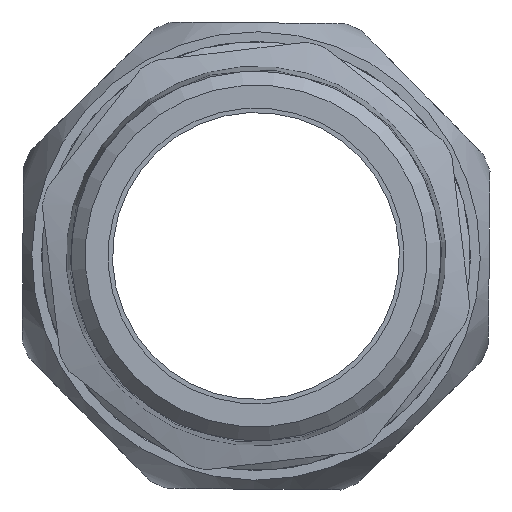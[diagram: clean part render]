
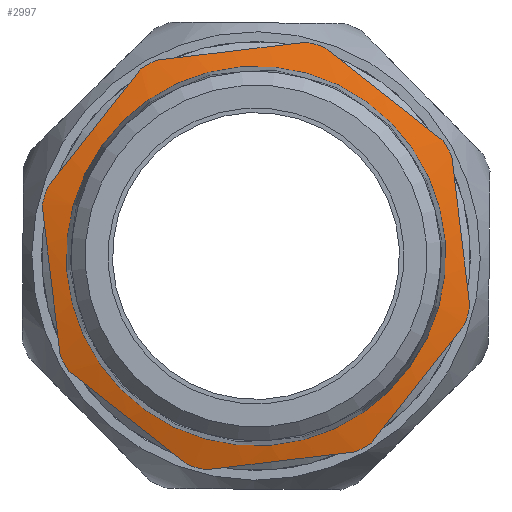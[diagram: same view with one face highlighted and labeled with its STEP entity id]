
A CAD part, left-side view. The second image highlights one B-rep face of the part: STEP entity #2997.
In plain terms, the highlighted conical face has half-angle 75 degrees and reference radius 22.827 mm.
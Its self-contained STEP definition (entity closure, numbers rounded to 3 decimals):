
#2505=CARTESIAN_POINT('',(30.103,18.019,16.6));
#2506=VERTEX_POINT('',#2505);
#2513=CARTESIAN_POINT('',(30.103,24.479,1.003));
#2514=VERTEX_POINT('',#2513);
#2515=CARTESIAN_POINT('',(30.103,24.479,1.003));
#2516=CARTESIAN_POINT('',(30.882,21.249,8.802));
#2517=CARTESIAN_POINT('',(30.103,18.019,16.6));
#2525=(BOUNDED_CURVE()B_SPLINE_CURVE(2,(#2515,#2516,#2517),.UNSPECIFIED.,.F.,.U.)B_SPLINE_CURVE_WITH_KNOTS((3,3),(0.0,1.69),.UNSPECIFIED.)CURVE()GEOMETRIC_REPRESENTATION_ITEM()RATIONAL_B_SPLINE_CURVE((1.0,1.065,1.0))REPRESENTATION_ITEM(''));
#2526=EDGE_CURVE('',#2514,#2506,#2525,.T.);
#2559=CARTESIAN_POINT('',(30.103,1.003,24.479));
#2560=VERTEX_POINT('',#2559);
#2567=CARTESIAN_POINT('',(30.103,16.6,18.019));
#2568=VERTEX_POINT('',#2567);
#2569=CARTESIAN_POINT('',(30.103,16.6,18.019));
#2570=CARTESIAN_POINT('',(30.882,8.802,21.249));
#2571=CARTESIAN_POINT('',(30.103,1.003,24.479));
#2579=(BOUNDED_CURVE()B_SPLINE_CURVE(2,(#2569,#2570,#2571),.UNSPECIFIED.,.F.,.U.)B_SPLINE_CURVE_WITH_KNOTS((3,3),(0.0,1.69),.UNSPECIFIED.)CURVE()GEOMETRIC_REPRESENTATION_ITEM()RATIONAL_B_SPLINE_CURVE((1.0,1.065,1.0))REPRESENTATION_ITEM(''));
#2580=EDGE_CURVE('',#2568,#2560,#2579,.T.);
#2613=CARTESIAN_POINT('',(30.103,-16.6,18.019));
#2614=VERTEX_POINT('',#2613);
#2621=CARTESIAN_POINT('',(30.103,-1.003,24.479));
#2622=VERTEX_POINT('',#2621);
#2623=CARTESIAN_POINT('',(30.103,-1.003,24.479));
#2624=CARTESIAN_POINT('',(30.882,-8.802,21.249));
#2625=CARTESIAN_POINT('',(30.103,-16.6,18.019));
#2633=(BOUNDED_CURVE()B_SPLINE_CURVE(2,(#2623,#2624,#2625),.UNSPECIFIED.,.F.,.U.)B_SPLINE_CURVE_WITH_KNOTS((3,3),(0.0,1.69),.UNSPECIFIED.)CURVE()GEOMETRIC_REPRESENTATION_ITEM()RATIONAL_B_SPLINE_CURVE((1.0,1.065,1.0))REPRESENTATION_ITEM(''));
#2634=EDGE_CURVE('',#2622,#2614,#2633,.T.);
#2667=CARTESIAN_POINT('',(30.103,-24.479,1.003));
#2668=VERTEX_POINT('',#2667);
#2675=CARTESIAN_POINT('',(30.103,-18.019,16.6));
#2676=VERTEX_POINT('',#2675);
#2677=CARTESIAN_POINT('',(30.103,-18.019,16.6));
#2678=CARTESIAN_POINT('',(30.882,-21.249,8.802));
#2679=CARTESIAN_POINT('',(30.103,-24.479,1.003));
#2687=(BOUNDED_CURVE()B_SPLINE_CURVE(2,(#2677,#2678,#2679),.UNSPECIFIED.,.F.,.U.)B_SPLINE_CURVE_WITH_KNOTS((3,3),(0.0,1.69),.UNSPECIFIED.)CURVE()GEOMETRIC_REPRESENTATION_ITEM()RATIONAL_B_SPLINE_CURVE((1.0,1.065,1.0))REPRESENTATION_ITEM(''));
#2688=EDGE_CURVE('',#2676,#2668,#2687,.T.);
#2721=CARTESIAN_POINT('',(30.103,-18.019,-16.6));
#2722=VERTEX_POINT('',#2721);
#2729=CARTESIAN_POINT('',(30.103,-24.479,-1.003));
#2730=VERTEX_POINT('',#2729);
#2731=CARTESIAN_POINT('',(30.103,-24.479,-1.003));
#2732=CARTESIAN_POINT('',(30.882,-21.249,-8.802));
#2733=CARTESIAN_POINT('',(30.103,-18.019,-16.6));
#2741=(BOUNDED_CURVE()B_SPLINE_CURVE(2,(#2731,#2732,#2733),.UNSPECIFIED.,.F.,.U.)B_SPLINE_CURVE_WITH_KNOTS((3,3),(0.0,1.69),.UNSPECIFIED.)CURVE()GEOMETRIC_REPRESENTATION_ITEM()RATIONAL_B_SPLINE_CURVE((1.0,1.065,1.0))REPRESENTATION_ITEM(''));
#2742=EDGE_CURVE('',#2730,#2722,#2741,.T.);
#2775=CARTESIAN_POINT('',(30.103,-1.003,-24.479));
#2776=VERTEX_POINT('',#2775);
#2783=CARTESIAN_POINT('',(30.103,-16.6,-18.019));
#2784=VERTEX_POINT('',#2783);
#2785=CARTESIAN_POINT('',(30.103,-16.6,-18.019));
#2786=CARTESIAN_POINT('',(30.882,-8.802,-21.249));
#2787=CARTESIAN_POINT('',(30.103,-1.003,-24.479));
#2795=(BOUNDED_CURVE()B_SPLINE_CURVE(2,(#2785,#2786,#2787),.UNSPECIFIED.,.F.,.U.)B_SPLINE_CURVE_WITH_KNOTS((3,3),(0.0,1.69),.UNSPECIFIED.)CURVE()GEOMETRIC_REPRESENTATION_ITEM()RATIONAL_B_SPLINE_CURVE((1.0,1.065,1.0))REPRESENTATION_ITEM(''));
#2796=EDGE_CURVE('',#2784,#2776,#2795,.T.);
#2829=CARTESIAN_POINT('',(30.103,16.6,-18.019));
#2830=VERTEX_POINT('',#2829);
#2837=CARTESIAN_POINT('',(30.103,1.003,-24.479));
#2838=VERTEX_POINT('',#2837);
#2839=CARTESIAN_POINT('',(30.103,1.003,-24.479));
#2840=CARTESIAN_POINT('',(30.882,8.802,-21.249));
#2841=CARTESIAN_POINT('',(30.103,16.6,-18.019));
#2849=(BOUNDED_CURVE()B_SPLINE_CURVE(2,(#2839,#2840,#2841),.UNSPECIFIED.,.F.,.U.)B_SPLINE_CURVE_WITH_KNOTS((3,3),(0.0,1.69),.UNSPECIFIED.)CURVE()GEOMETRIC_REPRESENTATION_ITEM()RATIONAL_B_SPLINE_CURVE((1.0,1.065,1.0))REPRESENTATION_ITEM(''));
#2850=EDGE_CURVE('',#2838,#2830,#2849,.T.);
#2883=CARTESIAN_POINT('',(30.103,24.479,-1.003));
#2884=VERTEX_POINT('',#2883);
#2891=CARTESIAN_POINT('',(30.103,18.019,-16.6));
#2892=VERTEX_POINT('',#2891);
#2893=CARTESIAN_POINT('',(30.103,18.019,-16.6));
#2894=CARTESIAN_POINT('',(30.882,21.249,-8.802));
#2895=CARTESIAN_POINT('',(30.103,24.479,-1.003));
#2903=(BOUNDED_CURVE()B_SPLINE_CURVE(2,(#2893,#2894,#2895),.UNSPECIFIED.,.F.,.U.)B_SPLINE_CURVE_WITH_KNOTS((3,3),(0.0,1.69),.UNSPECIFIED.)CURVE()GEOMETRIC_REPRESENTATION_ITEM()RATIONAL_B_SPLINE_CURVE((1.0,1.065,1.0))REPRESENTATION_ITEM(''));
#2904=EDGE_CURVE('',#2892,#2884,#2903,.T.);
#2915=CARTESIAN_POINT('',(30.552,0.0,0.0));
#2916=DIRECTION('',(-1.0,0.0,0.0));
#2917=DIRECTION('',(0.0,1.0,0.0));
#2918=AXIS2_PLACEMENT_3D('',#2915,#2916,#2917);
#2919=CONICAL_SURFACE('',#2918,22.827,75.);
#2920=ORIENTED_EDGE('',*,*,#2526,.T.);
#2921=CARTESIAN_POINT('',(30.103,0.0,0.0));
#2922=DIRECTION('',(1.0,0.0,0.0));
#2923=DIRECTION('',(0.0,1.0,0.0));
#2924=AXIS2_PLACEMENT_3D('',#2921,#2922,#2923);
#2925=CIRCLE('',#2924,24.5);
#2926=EDGE_CURVE('',#2506,#2568,#2925,.T.);
#2927=ORIENTED_EDGE('',*,*,#2926,.T.);
#2928=ORIENTED_EDGE('',*,*,#2580,.T.);
#2929=CARTESIAN_POINT('',(30.103,0.0,0.0));
#2930=DIRECTION('',(1.0,0.0,0.0));
#2931=DIRECTION('',(0.0,1.0,0.0));
#2932=AXIS2_PLACEMENT_3D('',#2929,#2930,#2931);
#2933=CIRCLE('',#2932,24.5);
#2934=EDGE_CURVE('',#2560,#2622,#2933,.T.);
#2935=ORIENTED_EDGE('',*,*,#2934,.T.);
#2936=ORIENTED_EDGE('',*,*,#2634,.T.);
#2937=CARTESIAN_POINT('',(30.103,0.0,0.0));
#2938=DIRECTION('',(1.0,0.0,0.0));
#2939=DIRECTION('',(0.0,1.0,0.0));
#2940=AXIS2_PLACEMENT_3D('',#2937,#2938,#2939);
#2941=CIRCLE('',#2940,24.5);
#2942=EDGE_CURVE('',#2614,#2676,#2941,.T.);
#2943=ORIENTED_EDGE('',*,*,#2942,.T.);
#2944=ORIENTED_EDGE('',*,*,#2688,.T.);
#2945=CARTESIAN_POINT('',(30.103,0.0,0.0));
#2946=DIRECTION('',(1.0,0.0,0.0));
#2947=DIRECTION('',(0.0,1.0,0.0));
#2948=AXIS2_PLACEMENT_3D('',#2945,#2946,#2947);
#2949=CIRCLE('',#2948,24.5);
#2950=EDGE_CURVE('',#2668,#2730,#2949,.T.);
#2951=ORIENTED_EDGE('',*,*,#2950,.T.);
#2952=ORIENTED_EDGE('',*,*,#2742,.T.);
#2953=CARTESIAN_POINT('',(30.103,0.0,0.0));
#2954=DIRECTION('',(1.0,0.0,0.0));
#2955=DIRECTION('',(0.0,1.0,0.0));
#2956=AXIS2_PLACEMENT_3D('',#2953,#2954,#2955);
#2957=CIRCLE('',#2956,24.5);
#2958=EDGE_CURVE('',#2722,#2784,#2957,.T.);
#2959=ORIENTED_EDGE('',*,*,#2958,.T.);
#2960=ORIENTED_EDGE('',*,*,#2796,.T.);
#2961=CARTESIAN_POINT('',(30.103,0.0,0.0));
#2962=DIRECTION('',(1.0,0.0,0.0));
#2963=DIRECTION('',(0.0,1.0,0.0));
#2964=AXIS2_PLACEMENT_3D('',#2961,#2962,#2963);
#2965=CIRCLE('',#2964,24.5);
#2966=EDGE_CURVE('',#2776,#2838,#2965,.T.);
#2967=ORIENTED_EDGE('',*,*,#2966,.T.);
#2968=ORIENTED_EDGE('',*,*,#2850,.T.);
#2969=CARTESIAN_POINT('',(30.103,0.0,0.0));
#2970=DIRECTION('',(1.0,0.0,0.0));
#2971=DIRECTION('',(0.0,1.0,0.0));
#2972=AXIS2_PLACEMENT_3D('',#2969,#2970,#2971);
#2973=CIRCLE('',#2972,24.5);
#2974=EDGE_CURVE('',#2830,#2892,#2973,.T.);
#2975=ORIENTED_EDGE('',*,*,#2974,.T.);
#2976=ORIENTED_EDGE('',*,*,#2904,.T.);
#2977=CARTESIAN_POINT('',(30.103,0.0,0.0));
#2978=DIRECTION('',(1.0,0.0,0.0));
#2979=DIRECTION('',(0.0,1.0,0.0));
#2980=AXIS2_PLACEMENT_3D('',#2977,#2978,#2979);
#2981=CIRCLE('',#2980,24.5);
#2982=EDGE_CURVE('',#2884,#2514,#2981,.T.);
#2983=ORIENTED_EDGE('',*,*,#2982,.T.);
#2984=EDGE_LOOP('',(#2920,#2927,#2928,#2935,#2936,#2943,#2944,#2951,#2952,#2959,#2960,#2967,#2968,#2975,#2976,#2983));
#2985=FACE_OUTER_BOUND('',#2984,.T.);
#2986=CARTESIAN_POINT('',(31.,21.153,0.0));
#2987=VERTEX_POINT('',#2986);
#2988=CARTESIAN_POINT('',(31.,0.0,0.0));
#2989=DIRECTION('',(1.0,0.0,0.0));
#2990=DIRECTION('',(0.0,1.0,0.0));
#2991=AXIS2_PLACEMENT_3D('',#2988,#2989,#2990);
#2992=CIRCLE('',#2991,21.153);
#2993=EDGE_CURVE('',#2987,#2987,#2992,.T.);
#2994=ORIENTED_EDGE('',*,*,#2993,.F.);
#2995=EDGE_LOOP('',(#2994));
#2996=FACE_BOUND('',#2995,.T.);
#2997=ADVANCED_FACE('',(#2985,#2996),#2919,.T.);
